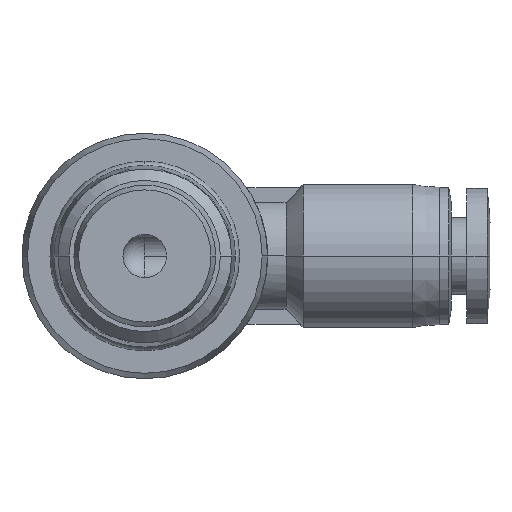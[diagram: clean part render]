
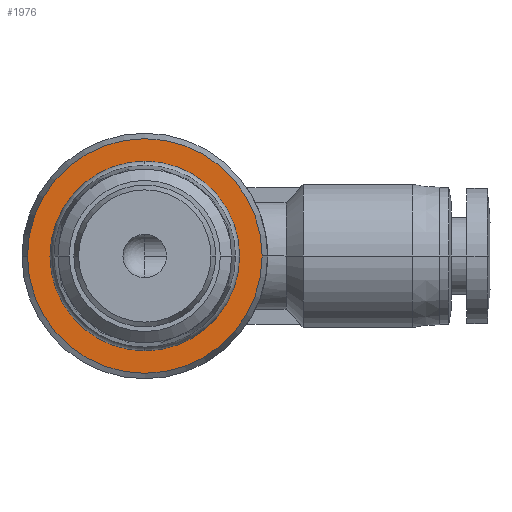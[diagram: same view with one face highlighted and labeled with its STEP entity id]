
A CAD part, front view. The second image highlights one B-rep face of the part: STEP entity #1976.
In plain terms, the highlighted planar face has unit normal (0, -1, 0).
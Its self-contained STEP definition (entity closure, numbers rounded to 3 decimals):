
#81 = EDGE_CURVE ( 'NONE', #12137, #10504, #1480, .T. ) ;
#98 = CIRCLE ( 'NONE', #2470, 8.598 ) ;
#134 = AXIS2_PLACEMENT_3D ( 'NONE', #6396, #8199, #10238 ) ;
#351 = EDGE_LOOP ( 'NONE', ( #2556, #7973 ) ) ;
#997 = CARTESIAN_POINT ( 'NONE',  ( 6.7, 12., 0. ) ) ;
#1039 = EDGE_CURVE ( 'NONE', #2161, #2339, #5085, .T. ) ;
#1072 = PLANE ( 'NONE',  #9444 ) ;
#1196 = EDGE_CURVE ( 'NONE', #2339, #2161, #12197, .T. ) ;
#1480 = CIRCLE ( 'NONE', #3860, 8.598 ) ;
#1976 = ADVANCED_FACE ( 'NONE', ( #11431, #6778 ), #1072, .T. ) ;
#1983 = CARTESIAN_POINT ( 'NONE',  ( 0., 12., 0. ) ) ;
#2060 = DIRECTION ( 'NONE',  ( 0., -1., 0. ) ) ;
#2161 = VERTEX_POINT ( 'NONE', #5222 ) ;
#2339 = VERTEX_POINT ( 'NONE', #997 ) ;
#2470 = AXIS2_PLACEMENT_3D ( 'NONE', #9231, #10279, #12129 ) ;
#2556 = ORIENTED_EDGE ( 'NONE', *, *, #1039, .T. ) ;
#3860 = AXIS2_PLACEMENT_3D ( 'NONE', #5819, #9596, #11460 ) ;
#4374 = EDGE_CURVE ( 'NONE', #10504, #12137, #98, .T. ) ;
#4848 = DIRECTION ( 'NONE',  ( 0., 1., 0. ) ) ;
#4869 = CARTESIAN_POINT ( 'NONE',  ( -7.649, 12., 0. ) ) ;
#5085 = CIRCLE ( 'NONE', #134, 6.7 ) ;
#5222 = CARTESIAN_POINT ( 'NONE',  ( -6.7, 12., 0. ) ) ;
#5586 = DIRECTION ( 'NONE',  ( -1., 0., 0. ) ) ;
#5792 = DIRECTION ( 'NONE',  ( 0., 0., -1. ) ) ;
#5819 = CARTESIAN_POINT ( 'NONE',  ( 0., 12., 0. ) ) ;
#6396 = CARTESIAN_POINT ( 'NONE',  ( 0., 12., 0. ) ) ;
#6778 = FACE_BOUND ( 'NONE', #351, .T. ) ;
#7973 = ORIENTED_EDGE ( 'NONE', *, *, #1196, .T. ) ;
#8199 = DIRECTION ( 'NONE',  ( 0., 1., 0. ) ) ;
#8467 = ORIENTED_EDGE ( 'NONE', *, *, #4374, .F. ) ;
#8688 = CARTESIAN_POINT ( 'NONE',  ( 8.598, 12., 0. ) ) ;
#8876 = ORIENTED_EDGE ( 'NONE', *, *, #81, .F. ) ;
#9231 = CARTESIAN_POINT ( 'NONE',  ( 0., 12., 0. ) ) ;
#9444 = AXIS2_PLACEMENT_3D ( 'NONE', #4869, #2060, #5792 ) ;
#9596 = DIRECTION ( 'NONE',  ( 0., 1., 0. ) ) ;
#9708 = EDGE_LOOP ( 'NONE', ( #8467, #8876 ) ) ;
#10238 = DIRECTION ( 'NONE',  ( -1., 0., 0. ) ) ;
#10279 = DIRECTION ( 'NONE',  ( 0., 1., 0. ) ) ;
#10504 = VERTEX_POINT ( 'NONE', #11001 ) ;
#11001 = CARTESIAN_POINT ( 'NONE',  ( -8.598, 12., 0. ) ) ;
#11413 = AXIS2_PLACEMENT_3D ( 'NONE', #1983, #4848, #5586 ) ;
#11431 = FACE_OUTER_BOUND ( 'NONE', #9708, .T. ) ;
#11460 = DIRECTION ( 'NONE',  ( -1., 0., 0. ) ) ;
#12129 = DIRECTION ( 'NONE',  ( -1., 0., 0. ) ) ;
#12137 = VERTEX_POINT ( 'NONE', #8688 ) ;
#12197 = CIRCLE ( 'NONE', #11413, 6.7 ) ;
